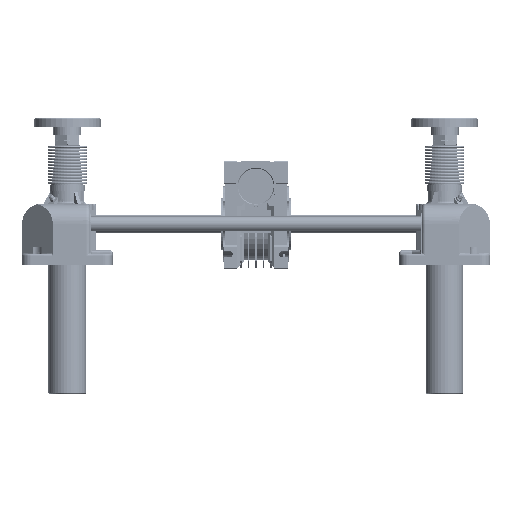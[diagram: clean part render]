
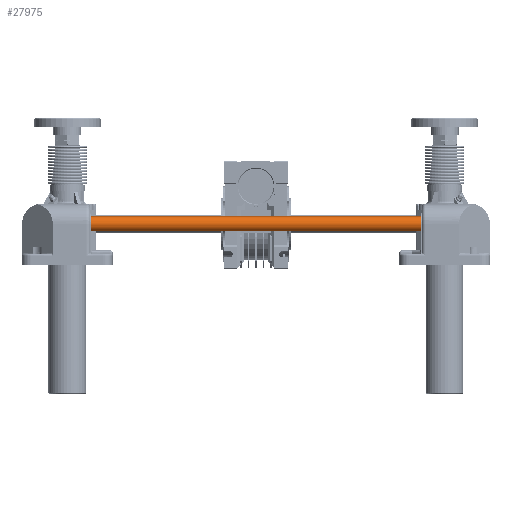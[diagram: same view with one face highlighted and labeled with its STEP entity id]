
A CAD part, left-side view. The second image highlights one B-rep face of the part: STEP entity #27975.
In plain terms, the highlighted cylindrical face has radius 10 mm (diameter 20 mm), a full revolution.
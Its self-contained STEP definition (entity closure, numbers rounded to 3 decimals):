
#27975=ADVANCED_FACE('',(#58521,#58522),#58523,.T.);
#58521=FACE_OUTER_BOUND('',#108655,.T.);
#58522=FACE_OUTER_BOUND('',#108656,.T.);
#58523=CYLINDRICAL_SURFACE('',#108657,10.0);
#108655=EDGE_LOOP('',(#234146));
#108656=EDGE_LOOP('',(#234147));
#108657=AXIS2_PLACEMENT_3D('',#234148,#234149,#234150);
#234146=ORIENTED_EDGE('',*,*,#282950,.T.);
#234147=ORIENTED_EDGE('',*,*,#282947,.T.);
#234148=CARTESIAN_POINT('',(0.0,0.0,537.4));
#234149=DIRECTION('',(0.0,0.0,-1.0));
#234150=DIRECTION('',(-1.0,0.0,0.0));
#282947=EDGE_CURVE('',#369279,#369279,#369280,.F.);
#282950=EDGE_CURVE('',#369285,#369285,#369286,.T.);
#369279=VERTEX_POINT('',#528415);
#369280=CIRCLE('',#528416,10.0);
#369285=VERTEX_POINT('',#528421);
#369286=CIRCLE('',#528422,10.0);
#528415=CARTESIAN_POINT('',(10.0,0.0,536.4));
#528416=AXIS2_PLACEMENT_3D('',#587812,#587813,#587814);
#528421=CARTESIAN_POINT('',(10.0,0.0,1.0));
#528422=AXIS2_PLACEMENT_3D('',#587821,#587822,#587823);
#587812=CARTESIAN_POINT('',(0.0,0.0,536.4));
#587813=DIRECTION('',(0.0,0.0,1.0));
#587814=DIRECTION('',(1.0,0.0,0.0));
#587821=CARTESIAN_POINT('',(0.0,0.0,1.0));
#587822=DIRECTION('',(0.0,0.0,1.0));
#587823=DIRECTION('',(1.0,0.0,0.0));
